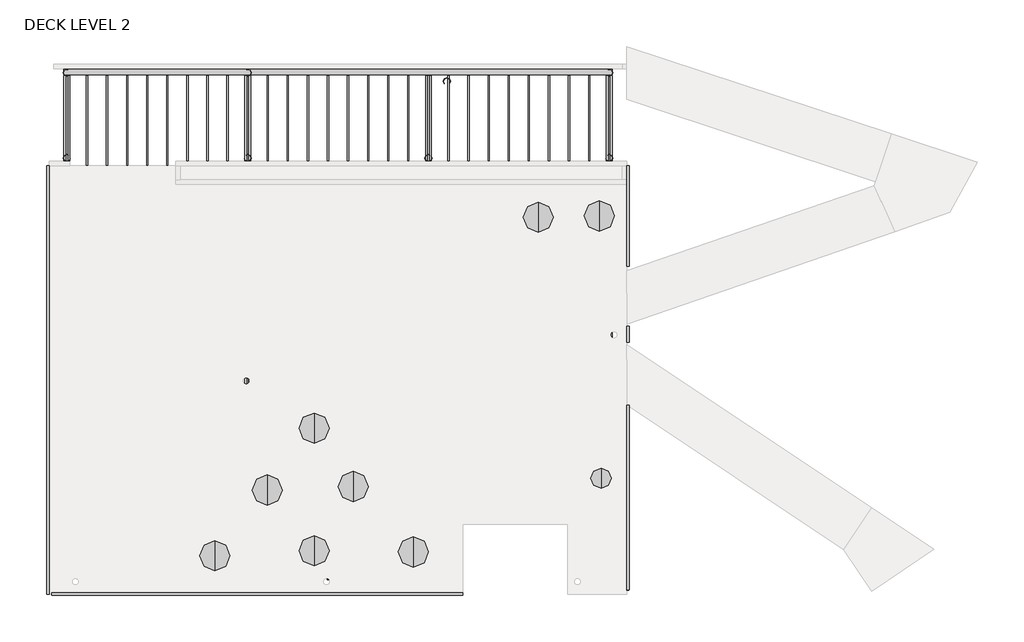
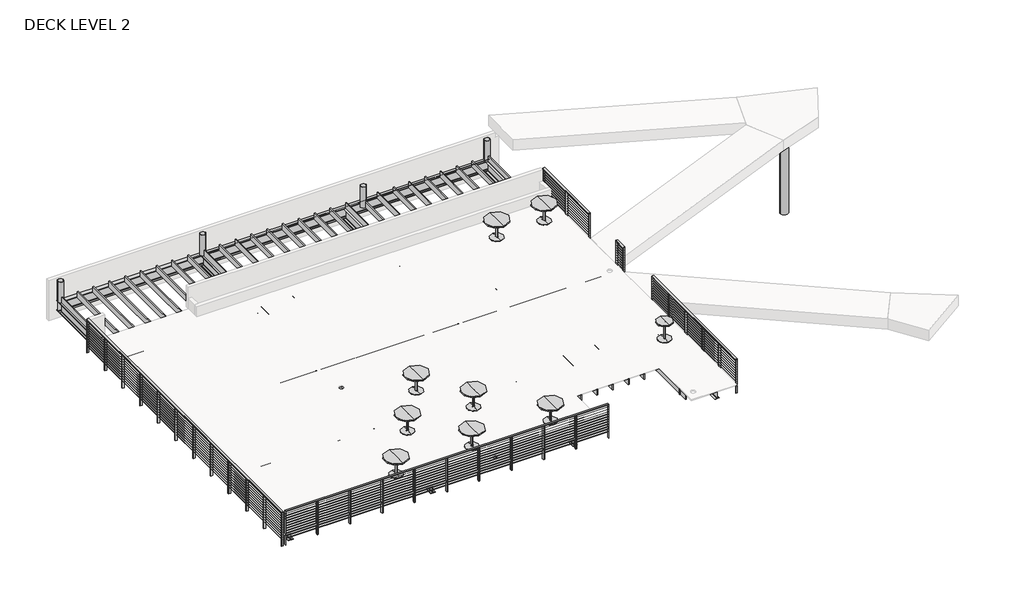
# One storey, part 2 of 2: 45 beams, 9 columns, 9 furniture elements, 5 railings.
"""IFC4 building model written with IfcOpenShell, lengths in millimetres."""

from ifc_helpers import new_model, si_unit, origin, place, context, project, spatial, transform, mapped, element, save
from components import dimension_lumber_2x10_61c77e52, dimension_lumber_2x10_eca2d837, dimension_lumber_2x10_4a288842, dimension_lumber_2x10_7c674044, dimension_lumber_2x10_3100e007, dimension_lumber_2x10_37ac17ff, w_wide_flange_w12x26_545e1fcb, w_wide_flange_w12x26_2a2bf782, w_wide_flange_w12x26_99a39e3e, w_wide_flange_w16x36_26ac9203, w_wide_flange_w16x36_c4811cc5, w_wide_flange_w16x36_319e22e6, w_wide_flange_w16x36_e66db0b1, w_wide_flange_w16x36_82c507be, hss_round_hollow_structural_section_column_hss12_x0_50_d82e39e9, hss_round_hollow_structural_section_column_hss8_625x0_500_1ae648ad, furniture_4a67c233, furniture_8b8330fc, cable_guard_rail_r3_83a43c1e, cable_guard_rail_r3_b7d82ff1, cable_guard_rail_r3_f430ca44, cable_guard_rail_r3_9873a473, cable_guard_rail_r3_7ccdf80b

model = new_model("IFC4")

# Units and contexts
model_context = context("Model", 3, world=origin())
ifc_project = project(units=[si_unit("LENGTHUNIT", "METRE", prefix="MILLI")], contexts=[model_context])

# Site, building, storey
site = spatial("IfcSite", under=ifc_project)
building = spatial("IfcBuilding", under=site)
storey = spatial("IfcBuildingStorey", under=building, Name="DECK LEVEL 2", Elevation=293954.2)

# Beams
placement = place(None, origin())
dimension_lumber_2x10_shape = dimension_lumber_2x10_61c77e52(model_context)
element("IfcBeam", 1, ObjectType="Dimension Lumber : 2x10", at=placement, inside=storey, context=model_context, shape_type="MappedRepresentation", body=[
    mapped(dimension_lumber_2x10_shape, transform((27884.6504964, 181939.8496196, 293817.675), x_axis=(0.0, -1.0, 0.0), y_axis=(1.0, 0.0, 0.0), z_axis=(0.0, 0.0, 1.0))),
])
element("IfcBeam", 2, ObjectType="Dimension Lumber : 2x10", at=placement, inside=storey, context=model_context, shape_type="MappedRepresentation", body=[
    mapped(dimension_lumber_2x10_shape, transform((27275.0504964, 181939.8496196, 293817.675), x_axis=(0.0, -1.0, 0.0), y_axis=(1.0, 0.0, 0.0), z_axis=(0.0, 0.0, 1.0))),
])
element("IfcBeam", 3, ObjectType="Dimension Lumber : 2x10", at=placement, inside=storey, context=model_context, shape_type="MappedRepresentation", body=[
    mapped(dimension_lumber_2x10_shape, transform((26665.4504964, 181939.8496196, 293817.675), x_axis=(0.0, -1.0, 0.0), y_axis=(1.0, 0.0, 0.0), z_axis=(0.0, 0.0, 1.0))),
])
element("IfcBeam", 4, ObjectType="Dimension Lumber : 2x10", at=placement, inside=storey, context=model_context, shape_type="MappedRepresentation", body=[
    mapped(dimension_lumber_2x10_shape, transform((26055.8504964, 181939.8496196, 293817.675), x_axis=(0.0, -1.0, 0.0), y_axis=(1.0, 0.0, 0.0), z_axis=(0.0, 0.0, 1.0))),
])
element("IfcBeam", 5, ObjectType="Dimension Lumber : 2x10", at=placement, inside=storey, context=model_context, shape_type="MappedRepresentation", body=[
    mapped(dimension_lumber_2x10_shape, transform((25446.2504964, 181939.8496196, 293817.675), x_axis=(0.0, -1.0, 0.0), y_axis=(1.0, 0.0, 0.0), z_axis=(0.0, 0.0, 1.0))),
])
element("IfcBeam", 6, ObjectType="Dimension Lumber : 2x10", at=placement, inside=storey, context=model_context, shape_type="MappedRepresentation", body=[
    mapped(dimension_lumber_2x10_shape, transform((24836.6504964, 181939.8496196, 293817.675), x_axis=(0.0, -1.0, 0.0), y_axis=(1.0, 0.0, 0.0), z_axis=(0.0, 0.0, 1.0))),
])
element("IfcBeam", 7, ObjectType="Dimension Lumber : 2x10", at=placement, inside=storey, context=model_context, shape_type="MappedRepresentation", body=[
    mapped(dimension_lumber_2x10_shape, transform((24227.0504964, 181939.8496196, 293817.675), x_axis=(0.0, -1.0, 0.0), y_axis=(1.0, 0.0, 0.0), z_axis=(0.0, 0.0, 1.0))),
])
element("IfcBeam", 8, ObjectType="Dimension Lumber : 2x10", at=placement, inside=storey, context=model_context, shape_type="MappedRepresentation", body=[
    mapped(dimension_lumber_2x10_shape, transform((23617.4504964, 181939.8496196, 293817.675), x_axis=(0.0, -1.0, 0.0), y_axis=(1.0, 0.0, 0.0), z_axis=(0.0, 0.0, 1.0))),
])
element("IfcBeam", 9, ObjectType="Dimension Lumber : 2x10", at=placement, inside=storey, context=model_context, shape_type="MappedRepresentation", body=[
    mapped(dimension_lumber_2x10_shape, transform((38857.4504964, 181939.8496196, 293817.675), x_axis=(0.0, -1.0, 0.0), y_axis=(1.0, 0.0, 0.0), z_axis=(0.0, 0.0, 1.0))),
])
element("IfcBeam", 10, ObjectType="Dimension Lumber : 2x10", at=placement, inside=storey, context=model_context, shape_type="MappedRepresentation", body=[
    mapped(dimension_lumber_2x10_shape, transform((38247.8504964, 181939.8496196, 293817.675), x_axis=(0.0, -1.0, 0.0), y_axis=(1.0, 0.0, 0.0), z_axis=(0.0, 0.0, 1.0))),
])
element("IfcBeam", 11, ObjectType="Dimension Lumber : 2x10", at=placement, inside=storey, context=model_context, shape_type="MappedRepresentation", body=[
    mapped(dimension_lumber_2x10_shape, transform((23007.8504964, 181939.8496196, 293817.675), x_axis=(0.0, -1.0, 0.0), y_axis=(1.0, 0.0, 0.0), z_axis=(0.0, 0.0, 1.0))),
])
element("IfcBeam", 12, ObjectType="Dimension Lumber : 2x10", at=placement, inside=storey, context=model_context, shape_type="MappedRepresentation", body=[
    mapped(dimension_lumber_2x10_shape, transform((33980.6504964, 181939.8496196, 293817.675), x_axis=(0.0, -1.0, 0.0), y_axis=(1.0, 0.0, 0.0), z_axis=(0.0, 0.0, 1.0))),
])
element("IfcBeam", 13, ObjectType="Dimension Lumber : 2x10", at=placement, inside=storey, context=model_context, shape_type="MappedRepresentation", body=[
    mapped(dimension_lumber_2x10_shape, transform((39467.0504964, 181939.8496196, 293817.675), x_axis=(0.0, -1.0, 0.0), y_axis=(1.0, 0.0, 0.0), z_axis=(0.0, 0.0, 1.0))),
])
dimension_lumber_2x10_2_shape = dimension_lumber_2x10_eca2d837(model_context)
element("IfcBeam", 14, ObjectType="Dimension Lumber : 2x10", at=placement, inside=storey, context=model_context, shape_type="MappedRepresentation", body=[
    mapped(dimension_lumber_2x10_2_shape, transform((29103.8504964, 181939.8496196, 293817.675), x_axis=(0.0, -1.0, 0.0), y_axis=(1.0, 0.0, 0.0), z_axis=(0.0, 0.0, 1.0))),
])
element("IfcBeam", 15, ObjectType="Dimension Lumber : 2x10", at=placement, inside=storey, context=model_context, shape_type="MappedRepresentation", body=[
    mapped(dimension_lumber_2x10_2_shape, transform((29713.4504964, 181939.8496196, 293817.675), x_axis=(0.0, -1.0, 0.0), y_axis=(1.0, 0.0, 0.0), z_axis=(0.0, 0.0, 1.0))),
])
element("IfcBeam", 16, ObjectType="Dimension Lumber : 2x10", at=placement, inside=storey, context=model_context, shape_type="MappedRepresentation", body=[
    mapped(dimension_lumber_2x10_2_shape, transform((30323.0504964, 181939.8496196, 293817.675), x_axis=(0.0, -1.0, 0.0), y_axis=(1.0, 0.0, 0.0), z_axis=(0.0, 0.0, 1.0))),
])
element("IfcBeam", 17, ObjectType="Dimension Lumber : 2x10", at=placement, inside=storey, context=model_context, shape_type="MappedRepresentation", body=[
    mapped(dimension_lumber_2x10_2_shape, transform((30932.6504964, 181939.8496196, 293817.675), x_axis=(0.0, -1.0, 0.0), y_axis=(1.0, 0.0, 0.0), z_axis=(0.0, 0.0, 1.0))),
])
element("IfcBeam", 18, ObjectType="Dimension Lumber : 2x10", at=placement, inside=storey, context=model_context, shape_type="MappedRepresentation", body=[
    mapped(dimension_lumber_2x10_2_shape, transform((31542.2504964, 181939.8496196, 293817.675), x_axis=(0.0, -1.0, 0.0), y_axis=(1.0, 0.0, 0.0), z_axis=(0.0, 0.0, 1.0))),
])
element("IfcBeam", 19, ObjectType="Dimension Lumber : 2x10", at=placement, inside=storey, context=model_context, shape_type="MappedRepresentation", body=[
    mapped(dimension_lumber_2x10_2_shape, transform((32151.8504964, 181939.8496196, 293817.675), x_axis=(0.0, -1.0, 0.0), y_axis=(1.0, 0.0, 0.0), z_axis=(0.0, 0.0, 1.0))),
])
element("IfcBeam", 20, ObjectType="Dimension Lumber : 2x10", at=placement, inside=storey, context=model_context, shape_type="MappedRepresentation", body=[
    mapped(dimension_lumber_2x10_2_shape, transform((32761.4504964, 181939.8496196, 293817.675), x_axis=(0.0, -1.0, 0.0), y_axis=(1.0, 0.0, 0.0), z_axis=(0.0, 0.0, 1.0))),
])
element("IfcBeam", 21, ObjectType="Dimension Lumber : 2x10", at=placement, inside=storey, context=model_context, shape_type="MappedRepresentation", body=[
    mapped(dimension_lumber_2x10_2_shape, transform((33371.0504964, 181939.8496196, 293817.675), x_axis=(0.0, -1.0, 0.0), y_axis=(1.0, 0.0, 0.0), z_axis=(0.0, 0.0, 1.0))),
])
element("IfcBeam", 22, ObjectType="Dimension Lumber : 2x10", at=placement, inside=storey, context=model_context, shape_type="MappedRepresentation", body=[
    mapped(dimension_lumber_2x10_2_shape, transform((28494.2504964, 181939.8496196, 293817.675), x_axis=(0.0, -1.0, 0.0), y_axis=(1.0, 0.0, 0.0), z_axis=(0.0, 0.0, 1.0))),
])
dimension_lumber_2x10_3_shape = dimension_lumber_2x10_4a288842(model_context)
element("IfcBeam", 23, ObjectType="Dimension Lumber : 2x10", at=placement, inside=storey, context=model_context, shape_type="MappedRepresentation", body=[
    mapped(dimension_lumber_2x10_3_shape, transform((28672.6562774, 175992.7071306, 293817.675), x_axis=(1.0, 0.0, 0.0), y_axis=(0.0, 1.0, 0.0), z_axis=(0.0, 0.0, 1.0))),
])
dimension_lumber_2x10_4_shape = dimension_lumber_2x10_7c674044(model_context)
element("IfcBeam", 24, ObjectType="Dimension Lumber : 2x10", at=placement, inside=storey, context=model_context, shape_type="MappedRepresentation", body=[
    mapped(dimension_lumber_2x10_4_shape, transform((38794.6832774, 175992.7071306, 293817.675), x_axis=(1.0, 0.0, 0.0), y_axis=(0.0, 1.0, 0.0), z_axis=(0.0, 0.0, 1.0))),
])
dimension_lumber_2x10_5_shape = dimension_lumber_2x10_3100e007(model_context)
element("IfcBeam", 25, ObjectType="Dimension Lumber : 2x10", at=placement, inside=storey, context=model_context, shape_type="MappedRepresentation", body=[
    mapped(dimension_lumber_2x10_5_shape, transform((31237.4504964, 177821.5071306, 293817.675), x_axis=(1.0, 0.0, 0.0), y_axis=(0.0, 1.0, 0.0), z_axis=(0.0, 0.0, 1.0))),
])
dimension_lumber_2x10_6_shape = dimension_lumber_2x10_37ac17ff(model_context)
element("IfcBeam", 26, ObjectType="Dimension Lumber : 2x10", at=placement, inside=storey, context=model_context, shape_type="MappedRepresentation", body=[
    mapped(dimension_lumber_2x10_6_shape, transform((37638.2504964, 181939.8496196, 293817.675), x_axis=(0.0, -1.0, 0.0), y_axis=(1.0, 0.0, 0.0), z_axis=(0.0, 0.0, 1.0))),
])
element("IfcBeam", 27, ObjectType="Dimension Lumber : 2x10", at=placement, inside=storey, context=model_context, shape_type="MappedRepresentation", body=[
    mapped(dimension_lumber_2x10_6_shape, transform((37028.6504964, 181939.8496196, 293817.675), x_axis=(0.0, -1.0, 0.0), y_axis=(1.0, 0.0, 0.0), z_axis=(0.0, 0.0, 1.0))),
])
element("IfcBeam", 28, ObjectType="Dimension Lumber : 2x10", at=placement, inside=storey, context=model_context, shape_type="MappedRepresentation", body=[
    mapped(dimension_lumber_2x10_6_shape, transform((36419.0504964, 181939.8496196, 293817.675), x_axis=(0.0, -1.0, 0.0), y_axis=(1.0, 0.0, 0.0), z_axis=(0.0, 0.0, 1.0))),
])
element("IfcBeam", 29, ObjectType="Dimension Lumber : 2x10", at=placement, inside=storey, context=model_context, shape_type="MappedRepresentation", body=[
    mapped(dimension_lumber_2x10_6_shape, transform((35809.4504964, 181939.8496196, 293817.675), x_axis=(0.0, -1.0, 0.0), y_axis=(1.0, 0.0, 0.0), z_axis=(0.0, 0.0, 1.0))),
])
element("IfcBeam", 30, ObjectType="Dimension Lumber : 2x10", at=placement, inside=storey, context=model_context, shape_type="MappedRepresentation", body=[
    mapped(dimension_lumber_2x10_6_shape, transform((35199.8504964, 181939.8496196, 293817.675), x_axis=(0.0, -1.0, 0.0), y_axis=(1.0, 0.0, 0.0), z_axis=(0.0, 0.0, 1.0))),
])
element("IfcBeam", 31, ObjectType="Dimension Lumber : 2x10", at=placement, inside=storey, context=model_context, shape_type="MappedRepresentation", body=[
    mapped(dimension_lumber_2x10_6_shape, transform((34590.2504964, 181939.8496196, 293817.675), x_axis=(0.0, -1.0, 0.0), y_axis=(1.0, 0.0, 0.0), z_axis=(0.0, 0.0, 1.0))),
])
w_wide_flange_w12x26_shape = w_wide_flange_w12x26_545e1fcb(model_context)
element("IfcBeam", 32, ObjectType="W-Wide Flange : W12X26", at=placement, inside=storey, context=model_context, shape_type="MappedRepresentation", body=[
    mapped(w_wide_flange_w12x26_shape, transform((27122.6504964, 187162.2936306, 293545.26), x_axis=(1.0, 0.0, 0.0), y_axis=(0.0, 1.0, 0.0), z_axis=(0.0, 0.0, 1.0))),
])
element("IfcBeam", 33, ObjectType="W-Wide Flange : W12X26", at=placement, inside=storey, context=model_context, shape_type="MappedRepresentation", body=[
    mapped(w_wide_flange_w12x26_shape, transform((27122.6504964, 183276.0936306, 293545.26), x_axis=(1.0, 0.0, 0.0), y_axis=(0.0, 1.0, 0.0), z_axis=(0.0, 0.0, 1.0))),
])
w_wide_flange_w12x26_2_shape = w_wide_flange_w12x26_2a2bf782(model_context)
element("IfcBeam", 34, ObjectType="W-Wide Flange : W12X26", at=placement, inside=storey, context=model_context, shape_type="MappedRepresentation", body=[
    mapped(w_wide_flange_w12x26_2_shape, transform((29865.8504964, 187162.2936306, 293545.26), x_axis=(-1.0, 0.0, 0.0), y_axis=(0.0, -1.0, 0.0), z_axis=(0.0, 0.0, 1.0))),
])
element("IfcBeam", 35, ObjectType="W-Wide Flange : W12X26", at=placement, inside=storey, context=model_context, shape_type="MappedRepresentation", body=[
    mapped(w_wide_flange_w12x26_2_shape, transform((29865.8504964, 183276.0936306, 293545.26), x_axis=(-1.0, 0.0, 0.0), y_axis=(0.0, -1.0, 0.0), z_axis=(0.0, 0.0, 1.0))),
])
w_wide_flange_w12x26_3_shape = w_wide_flange_w12x26_99a39e3e(model_context)
element("IfcBeam", 36, ObjectType="W-Wide Flange : W12X26", at=placement, inside=storey, context=model_context, shape_type="MappedRepresentation", body=[
    mapped(w_wide_flange_w12x26_3_shape, transform((38095.4504964, 187162.2936306, 293545.26), x_axis=(1.0, 0.0, 0.0), y_axis=(0.0, 1.0, 0.0), z_axis=(0.0, 0.0, 1.0))),
])
element("IfcBeam", 37, ObjectType="W-Wide Flange : W12X26", at=placement, inside=storey, context=model_context, shape_type="MappedRepresentation", body=[
    mapped(w_wide_flange_w12x26_3_shape, transform((38095.4504964, 183276.0936306, 293545.26), x_axis=(1.0, 0.0, 0.0), y_axis=(0.0, 1.0, 0.0), z_axis=(0.0, 0.0, 1.0))),
])
w_wide_flange_w16x36_shape = w_wide_flange_w16x36_26ac9203(model_context)
element("IfcBeam", 38, ObjectType="W-Wide Flange : W16X36", at=placement, inside=storey, context=model_context, shape_type="MappedRepresentation", body=[
    mapped(w_wide_flange_w16x36_shape, transform((36718.7819234, 179389.8936306, 293498.27), x_axis=(1.0, 0.0, 0.0), y_axis=(0.0, 1.0, 0.0), z_axis=(0.0, 0.0, 1.0))),
])
w_wide_flange_w16x36_2_shape = w_wide_flange_w16x36_c4811cc5(model_context)
element("IfcBeam", 39, ObjectType="W-Wide Flange : W16X36", at=placement, inside=storey, context=model_context, shape_type="MappedRepresentation", body=[
    mapped(w_wide_flange_w16x36_2_shape, transform((31237.4504964, 179389.8936306, 293498.27), x_axis=(1.0, 0.0, 0.0), y_axis=(0.0, 1.0, 0.0), z_axis=(0.0, 0.0, 1.0))),
])
w_wide_flange_w16x36_3_shape = w_wide_flange_w16x36_319e22e6(model_context)
element("IfcBeam", 40, ObjectType="W-Wide Flange : W16X36", at=placement, inside=storey, context=model_context, shape_type="MappedRepresentation", body=[
    mapped(w_wide_flange_w16x36_3_shape, transform((25756.1190693, 179389.8936306, 293498.27), x_axis=(1.0, 0.0, 0.0), y_axis=(0.0, 1.0, 0.0), z_axis=(0.0, 0.0, 1.0))),
])
w_wide_flange_w16x36_4_shape = w_wide_flange_w16x36_e66db0b1(model_context)
element("IfcBeam", 41, ObjectType="W-Wide Flange : W16X36", at=placement, inside=storey, context=model_context, shape_type="MappedRepresentation", body=[
    mapped(w_wide_flange_w16x36_4_shape, transform((28494.2504964, 179374.4585462, 293498.27), x_axis=(0.0, 1.0, 0.0), y_axis=(-1.0, 0.0, 0.0), z_axis=(0.0, 0.0, 1.0))),
])
element("IfcBeam", 42, ObjectType="W-Wide Flange : W16X36", at=placement, inside=storey, context=model_context, shape_type="MappedRepresentation", body=[
    mapped(w_wide_flange_w16x36_4_shape, transform((23007.8504964, 179374.4585462, 293498.27), x_axis=(0.0, 1.0, 0.0), y_axis=(-1.0, 0.0, 0.0), z_axis=(0.0, 0.0, 1.0))),
])
element("IfcBeam", 43, ObjectType="W-Wide Flange : W16X36", at=placement, inside=storey, context=model_context, shape_type="MappedRepresentation", body=[
    mapped(w_wide_flange_w16x36_4_shape, transform((33980.6504964, 179374.4585462, 293498.27), x_axis=(0.0, 1.0, 0.0), y_axis=(-1.0, 0.0, 0.0), z_axis=(0.0, 0.0, 1.0))),
])
element("IfcBeam", 44, ObjectType="W-Wide Flange : W16X36", at=placement, inside=storey, context=model_context, shape_type="MappedRepresentation", body=[
    mapped(w_wide_flange_w16x36_4_shape, transform((39467.0504964, 179374.4585462, 293498.27), x_axis=(0.0, 1.0, 0.0), y_axis=(-1.0, 0.0, 0.0), z_axis=(0.0, 0.0, 1.0))),
])
w_wide_flange_w16x36_5_shape = w_wide_flange_w16x36_82c507be(model_context)
element("IfcBeam", 45, ObjectType="W-Wide Flange : W16X36", at=placement, inside=storey, context=model_context, shape_type="MappedRepresentation", body=[
    mapped(w_wide_flange_w16x36_5_shape, transform((38095.4504964, 191073.8936306, 293498.27), x_axis=(1.0, 0.0, 0.0), y_axis=(0.0, 1.0, 0.0), z_axis=(0.0, 0.0, 1.0))),
])

# Columns
hss_round_hollow_structural_section_column_hss12_x0_50_shape = hss_round_hollow_structural_section_column_hss12_x0_50_d82e39e9(model_context)
element("IfcColumn", 46, ObjectType="HSS-Round Hollow Structural Section-Column : HSS12 X0.50", at=placement, inside=storey, context=model_context, shape_type="MappedRepresentation", body=[
    mapped(hss_round_hollow_structural_section_column_hss12_x0_50_shape, transform((49136.5830421, 187926.1394386, 0.0), x_axis=(1.0, 0.0, 0.0), y_axis=(0.0, 1.0, 0.0), z_axis=(0.0, 0.0, 1.0))),
])
hss_round_hollow_structural_section_column_hss8_625x0_500_shape = hss_round_hollow_structural_section_column_hss8_625x0_500_1ae648ad(model_context)
element("IfcColumn", 47, ObjectType="HSS-Round Hollow Structural Section-Column : HSS8.625X0.500", at=placement, inside=storey, context=model_context, shape_type="MappedRepresentation", body=[
    mapped(hss_round_hollow_structural_section_column_hss8_625x0_500_shape, transform((23007.8504964, 191048.4936306, 0.0), x_axis=(1.0, 0.0, 0.0), y_axis=(0.0, 1.0, 0.0), z_axis=(0.0, 0.0, 1.0))),
])
element("IfcColumn", 48, ObjectType="HSS-Round Hollow Structural Section-Column : HSS8.625X0.500", at=placement, inside=storey, context=model_context, shape_type="MappedRepresentation", body=[
    mapped(hss_round_hollow_structural_section_column_hss8_625x0_500_shape, transform((28494.2504964, 191048.4936306, 0.0), x_axis=(1.0, 0.0, 0.0), y_axis=(0.0, 1.0, 0.0), z_axis=(0.0, 0.0, 1.0))),
])
element("IfcColumn", 49, ObjectType="HSS-Round Hollow Structural Section-Column : HSS8.625X0.500", at=placement, inside=storey, context=model_context, shape_type="MappedRepresentation", body=[
    mapped(hss_round_hollow_structural_section_column_hss8_625x0_500_shape, transform((34541.3065946, 190788.7358566, 0.0), x_axis=(1.0, 0.0, 0.0), y_axis=(0.0, 1.0, 0.0), z_axis=(0.0, 0.0, 1.0))),
])
element("IfcColumn", 50, ObjectType="HSS-Round Hollow Structural Section-Column : HSS8.625X0.500", at=placement, inside=storey, context=model_context, shape_type="MappedRepresentation", body=[
    mapped(hss_round_hollow_structural_section_column_hss8_625x0_500_shape, transform((39467.0504964, 191048.4936306, 0.0), x_axis=(1.0, 0.0, 0.0), y_axis=(0.0, 1.0, 0.0), z_axis=(0.0, 0.0, 1.0))),
])
element("IfcColumn", 51, ObjectType="HSS-Round Hollow Structural Section-Column : HSS8.625X0.500", at=placement, inside=storey, context=model_context, shape_type="MappedRepresentation", body=[
    mapped(hss_round_hollow_structural_section_column_hss8_625x0_500_shape, transform((23007.8504964, 188457.6936306, 0.0), x_axis=(1.0, 0.0, 0.0), y_axis=(0.0, 1.0, 0.0), z_axis=(0.0, 0.0, 1.0))),
])
element("IfcColumn", 52, ObjectType="HSS-Round Hollow Structural Section-Column : HSS8.625X0.500", at=placement, inside=storey, context=model_context, shape_type="MappedRepresentation", body=[
    mapped(hss_round_hollow_structural_section_column_hss8_625x0_500_shape, transform((28494.2504964, 188457.6936306, 0.0), x_axis=(1.0, 0.0, 0.0), y_axis=(0.0, 1.0, 0.0), z_axis=(0.0, 0.0, 1.0))),
])
element("IfcColumn", 53, ObjectType="HSS-Round Hollow Structural Section-Column : HSS8.625X0.500", at=placement, inside=storey, context=model_context, shape_type="MappedRepresentation", body=[
    mapped(hss_round_hollow_structural_section_column_hss8_625x0_500_shape, transform((33980.6504964, 188457.6936306, 0.0), x_axis=(1.0, 0.0, 0.0), y_axis=(0.0, 1.0, 0.0), z_axis=(0.0, 0.0, 1.0))),
])
element("IfcColumn", 54, ObjectType="HSS-Round Hollow Structural Section-Column : HSS8.625X0.500", at=placement, inside=storey, context=model_context, shape_type="MappedRepresentation", body=[
    mapped(hss_round_hollow_structural_section_column_hss8_625x0_500_shape, transform((39467.0504964, 188457.6936306, 0.0), x_axis=(1.0, 0.0, 0.0), y_axis=(0.0, 1.0, 0.0), z_axis=(0.0, 0.0, 1.0))),
])

# Furniture
furniture_shape = furniture_4a67c233(model_context)
element("IfcFurniture", 55, ObjectType="Table - Round-01 : 24\" Dia Collaboration", at=placement, inside=storey, context=model_context, shape_type="MappedRepresentation", body=[
    mapped(furniture_shape, transform((39217.7304218, 178739.4496196, 293954.2), x_axis=(0.0, 1.0, 0.0), y_axis=(-1.0, 0.0, 0.0), z_axis=(0.0, 0.0, 1.0))),
])
furniture_2_shape = furniture_8b8330fc(model_context)
element("IfcFurniture", 56, ObjectType="Table - Round-01 : 36\" Dia Collaboration", at=placement, inside=storey, context=model_context, shape_type="MappedRepresentation", body=[
    mapped(furniture_2_shape, transform((39168.9588953, 186700.7510225, 293954.2), x_axis=(0.0, 1.0, 0.0), y_axis=(-1.0, 0.0, 0.0), z_axis=(0.0, 0.0, 1.0))),
])
element("IfcFurniture", 57, ObjectType="Table - Round-01 : 36\" Dia Collaboration", at=placement, inside=storey, context=model_context, shape_type="MappedRepresentation", body=[
    mapped(furniture_2_shape, transform((31697.5565343, 178491.0801086, 293954.2), x_axis=(0.0, 1.0, 0.0), y_axis=(-1.0, 0.0, 0.0), z_axis=(0.0, 0.0, 1.0))),
])
element("IfcFurniture", 58, ObjectType="Table - Round-01 : 36\" Dia Collaboration", at=placement, inside=storey, context=model_context, shape_type="MappedRepresentation", body=[
    mapped(furniture_2_shape, transform((30511.0256851, 176540.7510225, 293954.2), x_axis=(0.0, 1.0, 0.0), y_axis=(-1.0, 0.0, 0.0), z_axis=(0.0, 0.0, 1.0))),
])
element("IfcFurniture", 59, ObjectType="Table - Round-01 : 36\" Dia Collaboration", at=placement, inside=storey, context=model_context, shape_type="MappedRepresentation", body=[
    mapped(furniture_2_shape, transform((29088.7124777, 178383.8496196, 293954.2), x_axis=(0.0, 1.0, 0.0), y_axis=(-1.0, 0.0, 0.0), z_axis=(0.0, 0.0, 1.0))),
])
element("IfcFurniture", 60, ObjectType="Table - Round-01 : 36\" Dia Collaboration", at=placement, inside=storey, context=model_context, shape_type="MappedRepresentation", body=[
    mapped(furniture_2_shape, transform((33523.4504964, 176504.2496196, 293954.2), x_axis=(0.0, 1.0, 0.0), y_axis=(-1.0, 0.0, 0.0), z_axis=(0.0, 0.0, 1.0))),
])
element("IfcFurniture", 61, ObjectType="Table - Round-01 : 36\" Dia Collaboration", at=placement, inside=storey, context=model_context, shape_type="MappedRepresentation", body=[
    mapped(furniture_2_shape, transform((30511.0256851, 180263.4496196, 293954.2), x_axis=(0.0, 1.0, 0.0), y_axis=(-1.0, 0.0, 0.0), z_axis=(0.0, 0.0, 1.0))),
])
element("IfcFurniture", 62, ObjectType="Table - Round-01 : 36\" Dia Collaboration", at=placement, inside=storey, context=model_context, shape_type="MappedRepresentation", body=[
    mapped(furniture_2_shape, transform((27498.5211595, 176388.3510225, 293954.2), x_axis=(0.0, 1.0, 0.0), y_axis=(-1.0, 0.0, 0.0), z_axis=(0.0, 0.0, 1.0))),
])
element("IfcFurniture", 63, ObjectType="Table - Round-01 : 36\" Dia Collaboration", at=placement, inside=storey, context=model_context, shape_type="MappedRepresentation", body=[
    mapped(furniture_2_shape, transform((37314.7588953, 186664.2496196, 293954.2), x_axis=(0.0, 1.0, 0.0), y_axis=(-1.0, 0.0, 0.0), z_axis=(0.0, 0.0, 1.0))),
])

# Railings
cable_guard_rail_r3_shape = cable_guard_rail_r3_83a43c1e(model_context)
element("IfcRailing", 64, ObjectType="Cable Guard Rail - R3", at=placement, inside=storey, context=model_context, shape_type="MappedRepresentation", body=[
    mapped(cable_guard_rail_r3_shape, transform((0.0, 0.0, 0.0), x_axis=(1.0, 0.0, 0.0), y_axis=(0.0, 1.0, 0.0), z_axis=(0.0, 0.0, 1.0))),
])
cable_guard_rail_r3_2_shape = cable_guard_rail_r3_b7d82ff1(model_context)
element("IfcRailing", 65, ObjectType="Cable Guard Rail - R3", at=placement, inside=storey, context=model_context, shape_type="MappedRepresentation", body=[
    mapped(cable_guard_rail_r3_2_shape, transform((0.0, 0.0, 0.0), x_axis=(1.0, 0.0, 0.0), y_axis=(0.0, 1.0, 0.0), z_axis=(0.0, 0.0, 1.0))),
])
cable_guard_rail_r3_3_shape = cable_guard_rail_r3_f430ca44(model_context)
element("IfcRailing", 66, ObjectType="Cable Guard Rail - R3", at=placement, inside=storey, context=model_context, shape_type="MappedRepresentation", body=[
    mapped(cable_guard_rail_r3_3_shape, transform((0.0, 0.0, 0.0), x_axis=(1.0, 0.0, 0.0), y_axis=(0.0, 1.0, 0.0), z_axis=(0.0, 0.0, 1.0))),
])
cable_guard_rail_r3_4_shape = cable_guard_rail_r3_9873a473(model_context)
element("IfcRailing", 67, ObjectType="Cable Guard Rail - R3", at=placement, inside=storey, context=model_context, shape_type="MappedRepresentation", body=[
    mapped(cable_guard_rail_r3_4_shape, transform((0.0, 0.0, 0.0), x_axis=(1.0, 0.0, 0.0), y_axis=(0.0, 1.0, 0.0), z_axis=(0.0, 0.0, 1.0))),
])
cable_guard_rail_r3_5_shape = cable_guard_rail_r3_7ccdf80b(model_context)
element("IfcRailing", 68, ObjectType="Cable Guard Rail - R3", at=placement, inside=storey, context=model_context, shape_type="MappedRepresentation", body=[
    mapped(cable_guard_rail_r3_5_shape, transform((0.0, 0.0, 0.0), x_axis=(1.0, 0.0, 0.0), y_axis=(0.0, 1.0, 0.0), z_axis=(0.0, 0.0, 1.0))),
])

save(model, "model.ifc")
